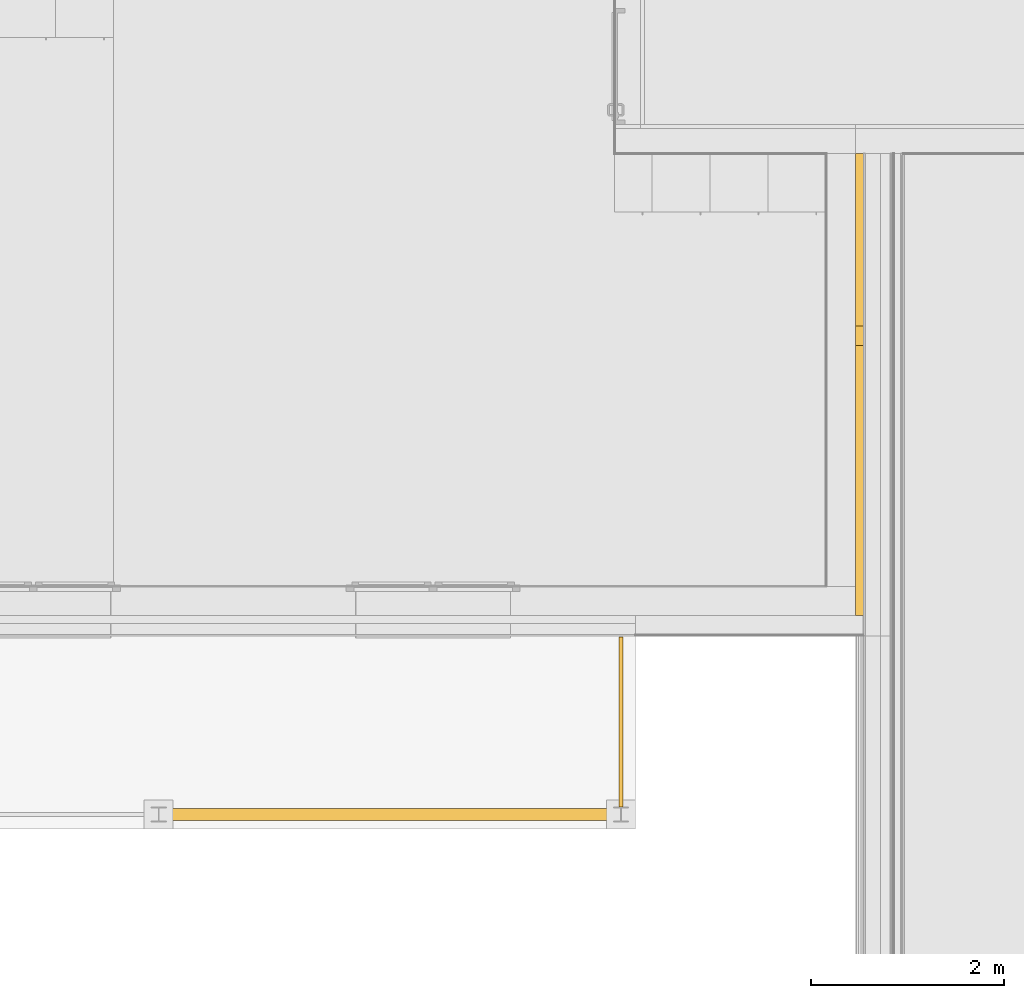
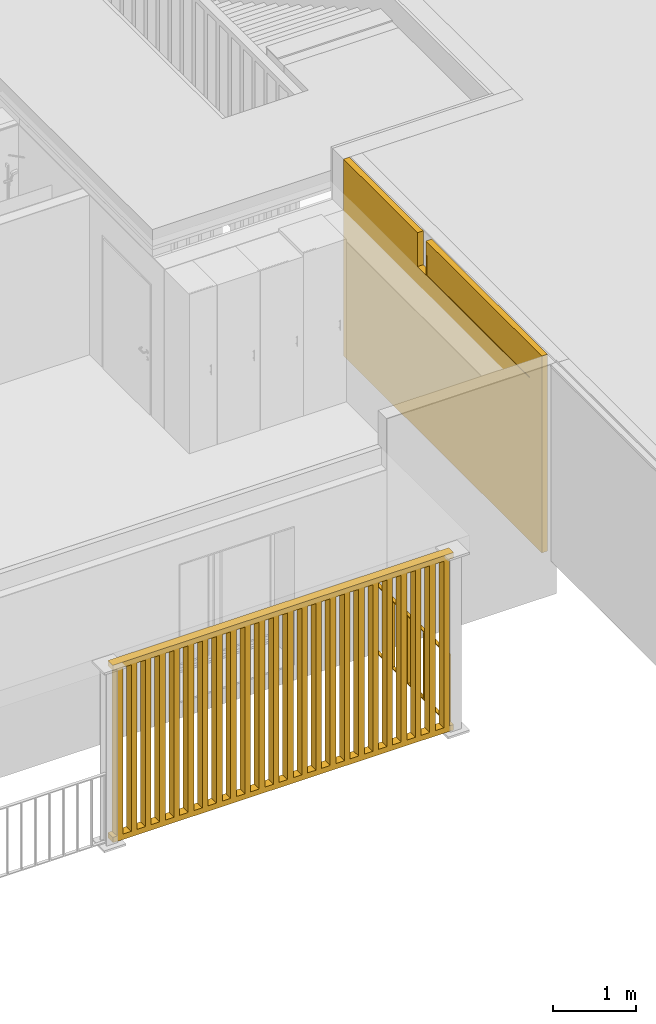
# One storey, part 24 of 34: 2 railings, 1 covering.
"""IFC4 building model written with IfcOpenShell, lengths in millimetres."""

from ifc_helpers import new_model, entity, si_unit, converted_unit, derived_unit, direction, frame, origin_with_axes, place, context, subcontext, project, spatial, polygons, material, constituent, constituent_set, type_object, element, save


model = new_model("IFC4")

# Units and contexts
model_context = context("Model", 3, precision=0.01, world=origin_with_axes(), true_north=direction((0.0, 1.0)))
body_context = subcontext(model_context, "Body", "Model", "MODEL_VIEW")
ifc_project = project(units=[si_unit("LENGTHUNIT", "METRE", prefix="MILLI"), si_unit("AREAUNIT", "SQUARE_METRE"), si_unit("VOLUMEUNIT", "CUBIC_METRE"), converted_unit("PLANEANGLEUNIT", "DEGREE", entity("IfcPlaneAngleMeasure", 0.0174532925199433), si_unit("PLANEANGLEUNIT", "RADIAN"), dimensions=[0, 0, 0, 0, 0, 0, 0]), converted_unit("TIMEUNIT", "Year", entity("IfcTimeMeasure", 31557600.0), si_unit("TIMEUNIT", "SECOND"), dimensions=[0, 0, 1, 0, 0, 0, 0]), si_unit("MASSUNIT", "GRAM", prefix="KILO"), si_unit("THERMODYNAMICTEMPERATUREUNIT", "DEGREE_CELSIUS"), si_unit("LUMINOUSINTENSITYUNIT", "LUMEN"), si_unit("ENERGYUNIT", "JOULE", prefix="MEGA"), derived_unit("THERMALCONDUCTANCEUNIT", [(si_unit("POWERUNIT", "WATT"), 1), (si_unit("LENGTHUNIT", "METRE"), -1), (si_unit("THERMODYNAMICTEMPERATUREUNIT", "KELVIN"), -1)]), derived_unit("SPECIFICHEATCAPACITYUNIT", [(si_unit("ENERGYUNIT", "JOULE"), 1), (si_unit("MASSUNIT", "GRAM", prefix="KILO"), -1), (si_unit("THERMODYNAMICTEMPERATUREUNIT", "KELVIN"), -1)]), derived_unit("MASSDENSITYUNIT", [(si_unit("MASSUNIT", "GRAM", prefix="KILO"), 1), (si_unit("VOLUMEUNIT", "CUBIC_METRE"), -1)])], contexts=[model_context])

# Site, building, storey
site_placement = place(None, origin_with_axes())
site = spatial("IfcSite", under=ifc_project, at=site_placement, Name="Gelände", CompositionType="ELEMENT")
building_placement = place(site_placement, origin_with_axes())
building = spatial("IfcBuilding", under=site, at=building_placement, Name="Gebäude", CompositionType="ELEMENT")
storey_placement = place(building_placement, frame((0.0, 0.0, 5799.999999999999), z_axis=(0.0, 0.0, 1.0), x_axis=(1.0, 0.0, 0.0)))
storey = spatial("IfcBuildingStorey", under=building, at=storey_placement, Name="2.OG", CompositionType="ELEMENT", Elevation=5800.0)

# Railings
ifc_material_1 = material(Name="Stahl")
ifc_constituent_1 = constituent(ifc_material_1, Name="Stahl 1")
ifc_constituent_2 = constituent(ifc_material_1, Name="Stahl 2")
ifc_constituent_3 = constituent(ifc_material_1, Name="Stahl 3")
ifc_constituent_4 = constituent(ifc_material_1, Name="Stahl 4")
ifc_constituent_5 = constituent(ifc_material_1, Name="Stahl 5")
ifc_constituent_6 = constituent(ifc_material_1, Name="Stahl 6")
ifc_constituent_7 = constituent(ifc_material_1, Name="Stahl 7")
ifc_constituent_8 = constituent(ifc_material_1, Name="Stahl 8")
ifc_constituent_9 = constituent(ifc_material_1, Name="Stahl 9")
ifc_constituent_10 = constituent(ifc_material_1, Name="Stahl 10")
ifc_constituent_11 = constituent(ifc_material_1, Name="Stahl 11")
ifc_constituent_12 = constituent(ifc_material_1, Name="Stahl 12")
ifc_constituent_13 = constituent(ifc_material_1, Name="Stahl 13")
ifc_constituent_14 = constituent(ifc_material_1, Name="Stahl 14")
ifc_constituent_set_1 = constituent_set(constituents=[ifc_constituent_1, ifc_constituent_2, ifc_constituent_3, ifc_constituent_4, ifc_constituent_5, ifc_constituent_6, ifc_constituent_7, ifc_constituent_8, ifc_constituent_9, ifc_constituent_10, ifc_constituent_11, ifc_constituent_12, ifc_constituent_13, ifc_constituent_14])
railing_type = type_object("IfcRailingType", Name="Geländerart", PredefinedType="NOTDEFINED")
railing_1_placement = place(storey_placement, frame((15487.99581849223, 21105.09674077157, 49.99999999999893), z_axis=(0.0, 0.0, 1.0), x_axis=(1.0, 0.0, 0.0)))
element("IfcRailing", 1, at=railing_1_placement, inside=storey, type_object=railing_type, material=ifc_constituent_set_1, Name="Geländer-003", PredefinedType="NOTDEFINED", context=body_context, shape_type="Tessellation", body=[
    polygons([(19.99999999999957, 83.49999999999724, 0.0), (-19.99999999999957, 83.49999999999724, 0.0), (-19.99999999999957, 83.49999999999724, 1000.0), (19.99999999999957, 83.49999999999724, 1000.0), (19.99999999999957, 68.49999999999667, 0.0), (-19.99999999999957, 68.49999999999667, 0.0), (-19.99999999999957, 68.49999999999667, 1000.0), (19.99999999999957, 68.49999999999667, 1000.0)], [[[1, 2, 3, 4]], [[1, 5, 6, 2]], [[2, 6, 7, 3]], [[4, 3, 7, 8]], [[5, 1, 4, 8]], [[6, 5, 8, 7]]], closed=True),
    polygons([(-22.50000000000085, 75.99999999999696, 1000.0), (-22.50000000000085, 75.99999999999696, 985.0000000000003), (-22.50000000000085, 68.49999999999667, 985.0000000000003), (-22.50000000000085, 68.49999999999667, 1000.0), (22.50000000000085, 75.99999999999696, 1000.0), (22.50000000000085, 75.99999999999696, 985.0000000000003), (22.50000000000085, 68.49999999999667, 985.0000000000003), (22.50000000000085, 68.49999999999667, 1000.0)], [[[1, 2, 3, 4]], [[1, 5, 6, 2]], [[2, 6, 7, 3]], [[4, 3, 7, 8]], [[5, 1, 4, 8]], [[6, 5, 8, 7]]], closed=True),
    polygons([(19.99999999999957, 1830.000000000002, 0.0), (-19.99999999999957, 1830.000000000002, 0.0), (-19.99999999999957, 1830.000000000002, 1000.0), (19.99999999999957, 1830.000000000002, 1000.0), (19.99999999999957, 1815.000000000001, 0.0), (-19.99999999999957, 1815.000000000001, 0.0), (-19.99999999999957, 1815.000000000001, 1000.0), (19.99999999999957, 1815.000000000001, 1000.0)], [[[1, 2, 3, 4]], [[1, 5, 6, 2]], [[2, 6, 7, 3]], [[4, 3, 7, 8]], [[5, 1, 4, 8]], [[6, 5, 8, 7]]], closed=True),
    polygons([(22.50000000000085, 1822.500000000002, 1000.0), (22.50000000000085, 1822.500000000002, 985.0000000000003), (22.50000000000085, 1830.000000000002, 985.0000000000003), (22.50000000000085, 1830.000000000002, 1000.0), (-22.50000000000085, 1822.500000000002, 1000.0), (-22.50000000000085, 1822.500000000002, 985.0000000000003), (-22.50000000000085, 1830.000000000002, 985.0000000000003), (-22.50000000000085, 1830.000000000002, 1000.0)], [[[1, 2, 3, 4]], [[1, 5, 6, 2]], [[2, 6, 7, 3]], [[4, 3, 7, 8]], [[5, 1, 4, 8]], [[6, 5, 8, 7]]], closed=True),
    polygons([(22.50000000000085, 75.99999999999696, 0.9999999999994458), (22.50000000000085, 75.99999999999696, -14.00000000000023), (22.50000000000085, 1822.500000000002, -14.00000000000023), (22.50000000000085, 1822.500000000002, 0.9999999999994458), (-22.50000000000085, 75.99999999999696, 0.9999999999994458), (-22.50000000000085, 75.99999999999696, -14.00000000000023), (-22.50000000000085, 1822.500000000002, -14.00000000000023), (-22.50000000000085, 1822.500000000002, 0.9999999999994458)], [[[1, 2, 3, 4]], [[1, 5, 6, 2]], [[2, 6, 7, 3]], [[4, 3, 7, 8]], [[5, 1, 4, 8]], [[6, 5, 8, 7]]], closed=True),
    polygons([(22.50000000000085, 75.99999999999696, 1000.0), (22.50000000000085, 75.99999999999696, 985.0000000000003), (22.50000000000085, 1822.500000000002, 985.0000000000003), (22.50000000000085, 1822.500000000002, 1000.0), (-22.50000000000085, 75.99999999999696, 1000.0), (-22.50000000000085, 75.99999999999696, 985.0000000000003), (-22.50000000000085, 1822.500000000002, 985.0000000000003), (-22.50000000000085, 1822.500000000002, 1000.0)], [[[1, 2, 3, 4]], [[1, 5, 6, 2]], [[2, 6, 7, 3]], [[4, 3, 7, 8]], [[5, 1, 4, 8]], [[6, 5, 8, 7]]], closed=True),
    polygons([(22.50000000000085, 277.5555555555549, 0.0), (-22.50000000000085, 277.5555555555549, 0.0), (-22.50000000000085, 277.5555555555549, 985.2293691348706), (22.49999999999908, 277.5555555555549, 985.2293691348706), (22.50000000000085, 262.5555555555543, 0.0), (-22.50000000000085, 262.5555555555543, 0.0), (-22.50000000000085, 262.5555555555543, 985.2293691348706), (22.49999999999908, 262.5555555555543, 985.2293691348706)], [[[1, 2, 3, 4]], [[1, 5, 6, 2]], [[2, 6, 7, 3]], [[4, 3, 7, 8]], [[5, 1, 4, 8]], [[6, 5, 8, 7]]], closed=True),
    polygons([(22.50000000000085, 471.611111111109, 0.0), (-22.50000000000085, 471.611111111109, 0.0), (-22.50000000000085, 471.611111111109, 985.2293691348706), (22.49999999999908, 471.611111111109, 985.2293691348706), (22.50000000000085, 456.6111111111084, 0.0), (-22.50000000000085, 456.6111111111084, 0.0), (-22.50000000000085, 456.6111111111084, 985.2293691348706), (22.49999999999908, 456.6111111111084, 985.2293691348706)], [[[1, 2, 3, 4]], [[1, 5, 6, 2]], [[2, 6, 7, 3]], [[4, 3, 7, 8]], [[5, 1, 4, 8]], [[6, 5, 8, 7]]], closed=True),
    polygons([(22.50000000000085, 665.6666666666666, 0.0), (-22.50000000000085, 665.6666666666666, 0.0), (-22.50000000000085, 665.6666666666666, 985.2293691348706), (22.49999999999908, 665.6666666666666, 985.2293691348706), (22.50000000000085, 650.6666666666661, 0.0), (-22.50000000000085, 650.6666666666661, 0.0), (-22.50000000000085, 650.6666666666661, 985.2293691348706), (22.49999999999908, 650.6666666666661, 985.2293691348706)], [[[1, 2, 3, 4]], [[1, 5, 6, 2]], [[2, 6, 7, 3]], [[4, 3, 7, 8]], [[5, 1, 4, 8]], [[6, 5, 8, 7]]], closed=True),
    polygons([(22.50000000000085, 859.7222222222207, 0.0), (-22.50000000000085, 859.7222222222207, 0.0), (-22.50000000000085, 859.7222222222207, 985.2293691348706), (22.49999999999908, 859.7222222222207, 985.2293691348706), (22.50000000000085, 844.7222222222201, 0.0), (-22.50000000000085, 844.7222222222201, 0.0), (-22.50000000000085, 844.7222222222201, 985.2293691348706), (22.49999999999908, 844.7222222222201, 985.2293691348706)], [[[1, 2, 3, 4]], [[1, 5, 6, 2]], [[2, 6, 7, 3]], [[4, 3, 7, 8]], [[5, 1, 4, 8]], [[6, 5, 8, 7]]], closed=True),
    polygons([(22.50000000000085, 1053.777777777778, 0.0), (-22.50000000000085, 1053.777777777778, 0.0), (-22.50000000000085, 1053.777777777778, 985.2293691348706), (22.49999999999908, 1053.777777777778, 985.2293691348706), (22.50000000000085, 1038.777777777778, 0.0), (-22.50000000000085, 1038.777777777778, 0.0), (-22.50000000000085, 1038.777777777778, 985.2293691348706), (22.49999999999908, 1038.777777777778, 985.2293691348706)], [[[1, 2, 3, 4]], [[1, 5, 6, 2]], [[2, 6, 7, 3]], [[4, 3, 7, 8]], [[5, 1, 4, 8]], [[6, 5, 8, 7]]], closed=True),
    polygons([(22.50000000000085, 1247.833333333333, 0.0), (-22.50000000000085, 1247.833333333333, 0.0), (-22.50000000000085, 1247.833333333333, 985.2293691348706), (22.49999999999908, 1247.833333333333, 985.2293691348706), (22.50000000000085, 1232.833333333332, 0.0), (-22.50000000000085, 1232.833333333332, 0.0), (-22.50000000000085, 1232.833333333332, 985.2293691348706), (22.49999999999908, 1232.833333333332, 985.2293691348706)], [[[1, 2, 3, 4]], [[1, 5, 6, 2]], [[2, 6, 7, 3]], [[4, 3, 7, 8]], [[5, 1, 4, 8]], [[6, 5, 8, 7]]], closed=True),
    polygons([(22.50000000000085, 1441.88888888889, 0.0), (-22.50000000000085, 1441.88888888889, 0.0), (-22.50000000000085, 1441.88888888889, 985.2293691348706), (22.49999999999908, 1441.88888888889, 985.2293691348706), (22.50000000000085, 1426.88888888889, 0.0), (-22.50000000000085, 1426.88888888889, 0.0), (-22.50000000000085, 1426.88888888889, 985.2293691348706), (22.49999999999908, 1426.88888888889, 985.2293691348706)], [[[1, 2, 3, 4]], [[1, 5, 6, 2]], [[2, 6, 7, 3]], [[4, 3, 7, 8]], [[5, 1, 4, 8]], [[6, 5, 8, 7]]], closed=True),
    polygons([(22.50000000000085, 1635.944444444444, 0.0), (-22.50000000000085, 1635.944444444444, 0.0), (-22.50000000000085, 1635.944444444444, 985.2293691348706), (22.49999999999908, 1635.944444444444, 985.2293691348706), (22.50000000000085, 1620.944444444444, 0.0), (-22.50000000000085, 1620.944444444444, 0.0), (-22.50000000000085, 1620.944444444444, 985.2293691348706), (22.49999999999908, 1620.944444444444, 985.2293691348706)], [[[1, 2, 3, 4]], [[1, 5, 6, 2]], [[2, 6, 7, 3]], [[4, 3, 7, 8]], [[5, 1, 4, 8]], [[6, 5, 8, 7]]], closed=True),
])
ifc_material_2 = material(Name="Vollholzwerkstoff")
ifc_constituent_15 = constituent(ifc_material_2, Name="Vollholzwerkstoff 1")
ifc_constituent_16 = constituent(ifc_material_2, Name="Vollholzwerkstoff 2")
ifc_constituent_17 = constituent(ifc_material_2, Name="Vollholzwerkstoff 3")
ifc_constituent_18 = constituent(ifc_material_2, Name="Vollholzwerkstoff 4")
ifc_constituent_19 = constituent(ifc_material_2, Name="Vollholzwerkstoff 5")
ifc_constituent_20 = constituent(ifc_material_2, Name="Vollholzwerkstoff 6")
ifc_constituent_21 = constituent(ifc_material_2, Name="Vollholzwerkstoff 7")
ifc_constituent_22 = constituent(ifc_material_2, Name="Vollholzwerkstoff 8")
ifc_constituent_23 = constituent(ifc_material_2, Name="Vollholzwerkstoff 9")
ifc_constituent_24 = constituent(ifc_material_2, Name="Vollholzwerkstoff 10")
ifc_constituent_25 = constituent(ifc_material_2, Name="Vollholzwerkstoff 11")
ifc_constituent_26 = constituent(ifc_material_2, Name="Vollholzwerkstoff 12")
ifc_constituent_27 = constituent(ifc_material_2, Name="Vollholzwerkstoff 13")
ifc_constituent_28 = constituent(ifc_material_2, Name="Vollholzwerkstoff 14")
ifc_constituent_29 = constituent(ifc_material_2, Name="Vollholzwerkstoff 15")
ifc_constituent_30 = constituent(ifc_material_2, Name="Vollholzwerkstoff 16")
ifc_constituent_31 = constituent(ifc_material_2, Name="Vollholzwerkstoff 17")
ifc_constituent_32 = constituent(ifc_material_2, Name="Vollholzwerkstoff 18")
ifc_constituent_33 = constituent(ifc_material_2, Name="Vollholzwerkstoff 19")
ifc_constituent_34 = constituent(ifc_material_2, Name="Vollholzwerkstoff 20")
ifc_constituent_35 = constituent(ifc_material_2, Name="Vollholzwerkstoff 21")
ifc_constituent_36 = constituent(ifc_material_2, Name="Vollholzwerkstoff 22")
ifc_constituent_37 = constituent(ifc_material_2, Name="Vollholzwerkstoff 23")
ifc_constituent_38 = constituent(ifc_material_2, Name="Vollholzwerkstoff 24")
ifc_constituent_39 = constituent(ifc_material_2, Name="Vollholzwerkstoff 25")
ifc_constituent_40 = constituent(ifc_material_2, Name="Vollholzwerkstoff 26")
ifc_constituent_set_2 = constituent_set(constituents=[ifc_constituent_15, ifc_constituent_16, ifc_constituent_17, ifc_constituent_18, ifc_constituent_19, ifc_constituent_20, ifc_constituent_21, ifc_constituent_22, ifc_constituent_23, ifc_constituent_24, ifc_constituent_25, ifc_constituent_26, ifc_constituent_27, ifc_constituent_28, ifc_constituent_29, ifc_constituent_30, ifc_constituent_31, ifc_constituent_32, ifc_constituent_33, ifc_constituent_34, ifc_constituent_35, ifc_constituent_36, ifc_constituent_37, ifc_constituent_38, ifc_constituent_39, ifc_constituent_40])
railing_2_placement = place(storey_placement, frame((10578.1363564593, 21097.59674077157, 74.99999999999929), z_axis=(0.0, 0.0, 1.0), x_axis=(1.0, 0.0, 0.0)))
element("IfcRailing", 2, at=railing_2_placement, inside=storey, type_object=railing_type, material=ifc_constituent_set_2, Name="Geländer-001", PredefinedType="NOTDEFINED", context=body_context, shape_type="Tessellation", body=[
    polygons([(139.0594620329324, -59.99999999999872, 2574.999999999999), (139.0594620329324, -59.99999999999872, 2494.999999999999), (4889.859462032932, -59.99999999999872, 2494.999999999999), (4889.859462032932, -59.99999999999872, 2574.999999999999), (139.0594620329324, 59.99999999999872, 2574.999999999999), (139.0594620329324, 59.99999999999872, 2494.999999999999), (4889.859462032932, 59.99999999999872, 2494.999999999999), (4889.859462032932, 59.99999999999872, 2574.999999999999)], [[[1, 2, 3, 4]], [[1, 5, 6, 2]], [[2, 6, 7, 3]], [[4, 3, 7, 8]], [[5, 1, 4, 8]], [[6, 5, 8, 7]]], closed=True),
    polygons([(139.0594620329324, -59.99999999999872, 40.00000000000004), (139.0594620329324, -59.99999999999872, -40.00000000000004), (4889.859462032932, -59.99999999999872, -40.00000000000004), (4889.859462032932, -59.99999999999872, 40.00000000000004), (139.0594620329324, 59.99999999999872, 40.00000000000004), (139.0594620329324, 59.99999999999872, -40.00000000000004), (4889.859462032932, 59.99999999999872, -40.00000000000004), (4889.859462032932, 59.99999999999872, 40.00000000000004)], [[[1, 2, 3, 4]], [[1, 5, 6, 2]], [[2, 6, 7, 3]], [[4, 3, 7, 8]], [[5, 1, 4, 8]], [[6, 5, 8, 7]]], closed=True),
    polygons([(277.0914620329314, -59.99999999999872, 40.00000000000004), (277.0914620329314, 59.99999999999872, 40.00000000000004), (277.0914620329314, 59.99999999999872, 2494.999999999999), (277.0914620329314, -59.99999999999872, 2494.999999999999), (197.0914620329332, -59.99999999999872, 40.00000000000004), (197.0914620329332, 59.99999999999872, 40.00000000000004), (197.0914620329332, 59.99999999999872, 2494.999999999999), (197.0914620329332, -59.99999999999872, 2494.999999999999)], [[[1, 2, 3, 4]], [[1, 5, 6, 2]], [[2, 6, 7, 3]], [[4, 3, 7, 8]], [[5, 1, 4, 8]], [[6, 5, 8, 7]]], closed=True),
    polygons([(475.123462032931, -59.99999999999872, 40.00000000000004), (475.123462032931, 59.99999999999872, 40.00000000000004), (475.123462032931, 59.99999999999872, 2494.999999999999), (475.123462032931, -59.99999999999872, 2494.999999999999), (395.1234620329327, -59.99999999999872, 40.00000000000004), (395.1234620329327, 59.99999999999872, 40.00000000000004), (395.1234620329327, 59.99999999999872, 2494.999999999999), (395.1234620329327, -59.99999999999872, 2494.999999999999)], [[[1, 2, 3, 4]], [[1, 5, 6, 2]], [[2, 6, 7, 3]], [[4, 3, 7, 8]], [[5, 1, 4, 8]], [[6, 5, 8, 7]]], closed=True),
    polygons([(673.1554620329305, -59.99999999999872, 40.00000000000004), (673.1554620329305, 59.99999999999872, 40.00000000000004), (673.1554620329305, 59.99999999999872, 2494.999999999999), (673.1554620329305, -59.99999999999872, 2494.999999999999), (593.1554620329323, -59.99999999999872, 40.00000000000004), (593.1554620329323, 59.99999999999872, 40.00000000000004), (593.1554620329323, 59.99999999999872, 2494.999999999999), (593.1554620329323, -59.99999999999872, 2494.999999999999)], [[[1, 2, 3, 4]], [[1, 5, 6, 2]], [[2, 6, 7, 3]], [[4, 3, 7, 8]], [[5, 1, 4, 8]], [[6, 5, 8, 7]]], closed=True),
    polygons([(871.1874620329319, -59.99999999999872, 40.00000000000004), (871.1874620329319, 59.99999999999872, 40.00000000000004), (871.1874620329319, 59.99999999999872, 2494.999999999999), (871.1874620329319, -59.99999999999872, 2494.999999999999), (791.1874620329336, -59.99999999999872, 40.00000000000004), (791.1874620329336, 59.99999999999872, 40.00000000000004), (791.1874620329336, 59.99999999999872, 2494.999999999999), (791.1874620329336, -59.99999999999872, 2494.999999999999)], [[[1, 2, 3, 4]], [[1, 5, 6, 2]], [[2, 6, 7, 3]], [[4, 3, 7, 8]], [[5, 1, 4, 8]], [[6, 5, 8, 7]]], closed=True),
    polygons([(1069.219462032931, -59.99999999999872, 40.00000000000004), (1069.219462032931, 59.99999999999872, 40.00000000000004), (1069.219462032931, 59.99999999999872, 2494.999999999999), (1069.219462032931, -59.99999999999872, 2494.999999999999), (989.219462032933, -59.99999999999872, 40.00000000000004), (989.219462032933, 59.99999999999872, 40.00000000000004), (989.219462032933, 59.99999999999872, 2494.999999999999), (989.219462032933, -59.99999999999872, 2494.999999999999)], [[[1, 2, 3, 4]], [[1, 5, 6, 2]], [[2, 6, 7, 3]], [[4, 3, 7, 8]], [[5, 1, 4, 8]], [[6, 5, 8, 7]]], closed=True),
    polygons([(1267.251462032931, -59.99999999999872, 40.00000000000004), (1267.251462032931, 59.99999999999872, 40.00000000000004), (1267.251462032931, 59.99999999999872, 2494.999999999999), (1267.251462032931, -59.99999999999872, 2494.999999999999), (1187.251462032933, -59.99999999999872, 40.00000000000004), (1187.251462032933, 59.99999999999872, 40.00000000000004), (1187.251462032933, 59.99999999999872, 2494.999999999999), (1187.251462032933, -59.99999999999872, 2494.999999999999)], [[[1, 2, 3, 4]], [[1, 5, 6, 2]], [[2, 6, 7, 3]], [[4, 3, 7, 8]], [[5, 1, 4, 8]], [[6, 5, 8, 7]]], closed=True),
    polygons([(1465.28346203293, -59.99999999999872, 40.00000000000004), (1465.28346203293, 59.99999999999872, 40.00000000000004), (1465.28346203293, 59.99999999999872, 2494.999999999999), (1465.28346203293, -59.99999999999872, 2494.999999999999), (1385.283462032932, -59.99999999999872, 40.00000000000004), (1385.283462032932, 59.99999999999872, 40.00000000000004), (1385.283462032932, 59.99999999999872, 2494.999999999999), (1385.283462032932, -59.99999999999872, 2494.999999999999)], [[[1, 2, 3, 4]], [[1, 5, 6, 2]], [[2, 6, 7, 3]], [[4, 3, 7, 8]], [[5, 1, 4, 8]], [[6, 5, 8, 7]]], closed=True),
    polygons([(1663.315462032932, -59.99999999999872, 40.00000000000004), (1663.315462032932, 59.99999999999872, 40.00000000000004), (1663.315462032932, 59.99999999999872, 2494.999999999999), (1663.315462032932, -59.99999999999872, 2494.999999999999), (1583.315462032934, -59.99999999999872, 40.00000000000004), (1583.315462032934, 59.99999999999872, 40.00000000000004), (1583.315462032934, 59.99999999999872, 2494.999999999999), (1583.315462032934, -59.99999999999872, 2494.999999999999)], [[[1, 2, 3, 4]], [[1, 5, 6, 2]], [[2, 6, 7, 3]], [[4, 3, 7, 8]], [[5, 1, 4, 8]], [[6, 5, 8, 7]]], closed=True),
    polygons([(1861.347462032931, -59.99999999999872, 40.00000000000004), (1861.347462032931, 59.99999999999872, 40.00000000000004), (1861.347462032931, 59.99999999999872, 2494.999999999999), (1861.347462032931, -59.99999999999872, 2494.999999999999), (1781.347462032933, -59.99999999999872, 40.00000000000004), (1781.347462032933, 59.99999999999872, 40.00000000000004), (1781.347462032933, 59.99999999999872, 2494.999999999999), (1781.347462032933, -59.99999999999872, 2494.999999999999)], [[[1, 2, 3, 4]], [[1, 5, 6, 2]], [[2, 6, 7, 3]], [[4, 3, 7, 8]], [[5, 1, 4, 8]], [[6, 5, 8, 7]]], closed=True),
    polygons([(2059.379462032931, -59.99999999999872, 40.00000000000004), (2059.379462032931, 59.99999999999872, 40.00000000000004), (2059.379462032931, 59.99999999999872, 2494.999999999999), (2059.379462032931, -59.99999999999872, 2494.999999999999), (1979.379462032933, -59.99999999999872, 40.00000000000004), (1979.379462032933, 59.99999999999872, 40.00000000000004), (1979.379462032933, 59.99999999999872, 2494.999999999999), (1979.379462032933, -59.99999999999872, 2494.999999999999)], [[[1, 2, 3, 4]], [[1, 5, 6, 2]], [[2, 6, 7, 3]], [[4, 3, 7, 8]], [[5, 1, 4, 8]], [[6, 5, 8, 7]]], closed=True),
    polygons([(2257.411462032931, -59.99999999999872, 40.00000000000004), (2257.411462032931, 59.99999999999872, 40.00000000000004), (2257.411462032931, 59.99999999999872, 2494.999999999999), (2257.411462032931, -59.99999999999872, 2494.999999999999), (2177.411462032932, -59.99999999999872, 40.00000000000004), (2177.411462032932, 59.99999999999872, 40.00000000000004), (2177.411462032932, 59.99999999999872, 2494.999999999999), (2177.411462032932, -59.99999999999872, 2494.999999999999)], [[[1, 2, 3, 4]], [[1, 5, 6, 2]], [[2, 6, 7, 3]], [[4, 3, 7, 8]], [[5, 1, 4, 8]], [[6, 5, 8, 7]]], closed=True),
    polygons([(2455.443462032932, -59.99999999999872, 40.00000000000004), (2455.443462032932, 59.99999999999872, 40.00000000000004), (2455.443462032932, 59.99999999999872, 2494.999999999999), (2455.443462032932, -59.99999999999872, 2494.999999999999), (2375.443462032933, -59.99999999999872, 40.00000000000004), (2375.443462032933, 59.99999999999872, 40.00000000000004), (2375.443462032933, 59.99999999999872, 2494.999999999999), (2375.443462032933, -59.99999999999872, 2494.999999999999)], [[[1, 2, 3, 4]], [[1, 5, 6, 2]], [[2, 6, 7, 3]], [[4, 3, 7, 8]], [[5, 1, 4, 8]], [[6, 5, 8, 7]]], closed=True),
    polygons([(2653.475462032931, -59.99999999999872, 40.00000000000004), (2653.475462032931, 59.99999999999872, 40.00000000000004), (2653.475462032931, 59.99999999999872, 2494.999999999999), (2653.475462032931, -59.99999999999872, 2494.999999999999), (2573.475462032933, -59.99999999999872, 40.00000000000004), (2573.475462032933, 59.99999999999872, 40.00000000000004), (2573.475462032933, 59.99999999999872, 2494.999999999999), (2573.475462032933, -59.99999999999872, 2494.999999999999)], [[[1, 2, 3, 4]], [[1, 5, 6, 2]], [[2, 6, 7, 3]], [[4, 3, 7, 8]], [[5, 1, 4, 8]], [[6, 5, 8, 7]]], closed=True),
    polygons([(2851.507462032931, -59.99999999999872, 40.00000000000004), (2851.507462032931, 59.99999999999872, 40.00000000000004), (2851.507462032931, 59.99999999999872, 2494.999999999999), (2851.507462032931, -59.99999999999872, 2494.999999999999), (2771.507462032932, -59.99999999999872, 40.00000000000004), (2771.507462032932, 59.99999999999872, 40.00000000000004), (2771.507462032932, 59.99999999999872, 2494.999999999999), (2771.507462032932, -59.99999999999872, 2494.999999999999)], [[[1, 2, 3, 4]], [[1, 5, 6, 2]], [[2, 6, 7, 3]], [[4, 3, 7, 8]], [[5, 1, 4, 8]], [[6, 5, 8, 7]]], closed=True),
    polygons([(3049.53946203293, -59.99999999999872, 40.00000000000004), (3049.53946203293, 59.99999999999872, 40.00000000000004), (3049.53946203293, 59.99999999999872, 2494.999999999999), (3049.53946203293, -59.99999999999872, 2494.999999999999), (2969.539462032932, -59.99999999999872, 40.00000000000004), (2969.539462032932, 59.99999999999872, 40.00000000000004), (2969.539462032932, 59.99999999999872, 2494.999999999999), (2969.539462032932, -59.99999999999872, 2494.999999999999)], [[[1, 2, 3, 4]], [[1, 5, 6, 2]], [[2, 6, 7, 3]], [[4, 3, 7, 8]], [[5, 1, 4, 8]], [[6, 5, 8, 7]]], closed=True),
    polygons([(3247.57146203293, -59.99999999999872, 40.00000000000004), (3247.57146203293, 59.99999999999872, 40.00000000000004), (3247.57146203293, 59.99999999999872, 2494.999999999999), (3247.57146203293, -59.99999999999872, 2494.999999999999), (3167.571462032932, -59.99999999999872, 40.00000000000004), (3167.571462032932, 59.99999999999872, 40.00000000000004), (3167.571462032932, 59.99999999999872, 2494.999999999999), (3167.571462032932, -59.99999999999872, 2494.999999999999)], [[[1, 2, 3, 4]], [[1, 5, 6, 2]], [[2, 6, 7, 3]], [[4, 3, 7, 8]], [[5, 1, 4, 8]], [[6, 5, 8, 7]]], closed=True),
    polygons([(3445.603462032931, -59.99999999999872, 40.00000000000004), (3445.603462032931, 59.99999999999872, 40.00000000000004), (3445.603462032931, 59.99999999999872, 2494.999999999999), (3445.603462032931, -59.99999999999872, 2494.999999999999), (3365.603462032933, -59.99999999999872, 40.00000000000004), (3365.603462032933, 59.99999999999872, 40.00000000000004), (3365.603462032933, 59.99999999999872, 2494.999999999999), (3365.603462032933, -59.99999999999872, 2494.999999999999)], [[[1, 2, 3, 4]], [[1, 5, 6, 2]], [[2, 6, 7, 3]], [[4, 3, 7, 8]], [[5, 1, 4, 8]], [[6, 5, 8, 7]]], closed=True),
    polygons([(3643.635462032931, -59.99999999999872, 40.00000000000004), (3643.635462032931, 59.99999999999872, 40.00000000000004), (3643.635462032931, 59.99999999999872, 2494.999999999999), (3643.635462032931, -59.99999999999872, 2494.999999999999), (3563.635462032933, -59.99999999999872, 40.00000000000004), (3563.635462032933, 59.99999999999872, 40.00000000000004), (3563.635462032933, 59.99999999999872, 2494.999999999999), (3563.635462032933, -59.99999999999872, 2494.999999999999)], [[[1, 2, 3, 4]], [[1, 5, 6, 2]], [[2, 6, 7, 3]], [[4, 3, 7, 8]], [[5, 1, 4, 8]], [[6, 5, 8, 7]]], closed=True),
    polygons([(3841.66746203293, -59.99999999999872, 40.00000000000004), (3841.66746203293, 59.99999999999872, 40.00000000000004), (3841.66746203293, 59.99999999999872, 2494.999999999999), (3841.66746203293, -59.99999999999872, 2494.999999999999), (3761.667462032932, -59.99999999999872, 40.00000000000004), (3761.667462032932, 59.99999999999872, 40.00000000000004), (3761.667462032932, 59.99999999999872, 2494.999999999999), (3761.667462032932, -59.99999999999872, 2494.999999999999)], [[[1, 2, 3, 4]], [[1, 5, 6, 2]], [[2, 6, 7, 3]], [[4, 3, 7, 8]], [[5, 1, 4, 8]], [[6, 5, 8, 7]]], closed=True),
    polygons([(4039.699462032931, -59.99999999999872, 40.00000000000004), (4039.699462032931, 59.99999999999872, 40.00000000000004), (4039.699462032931, 59.99999999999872, 2494.999999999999), (4039.699462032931, -59.99999999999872, 2494.999999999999), (3959.699462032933, -59.99999999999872, 40.00000000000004), (3959.699462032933, 59.99999999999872, 40.00000000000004), (3959.699462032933, 59.99999999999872, 2494.999999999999), (3959.699462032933, -59.99999999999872, 2494.999999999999)], [[[1, 2, 3, 4]], [[1, 5, 6, 2]], [[2, 6, 7, 3]], [[4, 3, 7, 8]], [[5, 1, 4, 8]], [[6, 5, 8, 7]]], closed=True),
    polygons([(4237.731462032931, -59.99999999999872, 40.00000000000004), (4237.731462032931, 59.99999999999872, 40.00000000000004), (4237.731462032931, 59.99999999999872, 2494.999999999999), (4237.731462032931, -59.99999999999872, 2494.999999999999), (4157.731462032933, -59.99999999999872, 40.00000000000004), (4157.731462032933, 59.99999999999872, 40.00000000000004), (4157.731462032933, 59.99999999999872, 2494.999999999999), (4157.731462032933, -59.99999999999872, 2494.999999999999)], [[[1, 2, 3, 4]], [[1, 5, 6, 2]], [[2, 6, 7, 3]], [[4, 3, 7, 8]], [[5, 1, 4, 8]], [[6, 5, 8, 7]]], closed=True),
    polygons([(4435.763462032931, -59.99999999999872, 40.00000000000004), (4435.763462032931, 59.99999999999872, 40.00000000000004), (4435.763462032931, 59.99999999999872, 2494.999999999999), (4435.763462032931, -59.99999999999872, 2494.999999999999), (4355.763462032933, -59.99999999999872, 40.00000000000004), (4355.763462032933, 59.99999999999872, 40.00000000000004), (4355.763462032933, 59.99999999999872, 2494.999999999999), (4355.763462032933, -59.99999999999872, 2494.999999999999)], [[[1, 2, 3, 4]], [[1, 5, 6, 2]], [[2, 6, 7, 3]], [[4, 3, 7, 8]], [[5, 1, 4, 8]], [[6, 5, 8, 7]]], closed=True),
    polygons([(4633.79546203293, -59.99999999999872, 40.00000000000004), (4633.79546203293, 59.99999999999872, 40.00000000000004), (4633.79546203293, 59.99999999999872, 2494.999999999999), (4633.79546203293, -59.99999999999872, 2494.999999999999), (4553.795462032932, -59.99999999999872, 40.00000000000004), (4553.795462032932, 59.99999999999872, 40.00000000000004), (4553.795462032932, 59.99999999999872, 2494.999999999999), (4553.795462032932, -59.99999999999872, 2494.999999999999)], [[[1, 2, 3, 4]], [[1, 5, 6, 2]], [[2, 6, 7, 3]], [[4, 3, 7, 8]], [[5, 1, 4, 8]], [[6, 5, 8, 7]]], closed=True),
    polygons([(4831.827462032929, -59.99999999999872, 40.00000000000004), (4831.827462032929, 59.99999999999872, 40.00000000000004), (4831.827462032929, 59.99999999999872, 2494.999999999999), (4831.827462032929, -59.99999999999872, 2494.999999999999), (4751.827462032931, -59.99999999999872, 40.00000000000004), (4751.827462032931, 59.99999999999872, 40.00000000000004), (4751.827462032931, 59.99999999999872, 2494.999999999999), (4751.827462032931, -59.99999999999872, 2494.999999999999)], [[[1, 2, 3, 4]], [[1, 5, 6, 2]], [[2, 6, 7, 3]], [[4, 3, 7, 8]], [[5, 1, 4, 8]], [[6, 5, 8, 7]]], closed=True),
])

# Covering
ifc_material_3 = material(Name="Dämmung Innen")
covering_type = type_object("IfcCoveringType", Name="Dämmung Innen 80", PredefinedType="NOTDEFINED")
covering_placement = place(storey_placement, frame((17999.99744477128, 27937.59728131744, 499.9999999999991), z_axis=(0.0, 0.0, 1.0), x_axis=(0.0, -1.0, 0.0)))
element("IfcCovering", 3, at=covering_placement, inside=storey, type_object=covering_type, material=ifc_material_3, Name="Wand-014", PredefinedType="NOTDEFINED", context=body_context, shape_type="Tessellation", body=[
    polygons([(4477.300453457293, -71.00000000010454, 2900.000000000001), (4480.000543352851, -71.00000000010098, 2900.00000294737), (4480.000543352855, -79.99999911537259, 2900.00000294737), (4780.000540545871, -80.00000000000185, 2900.000000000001), (4780.000540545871, 0.0, 2900.000000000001), (1980.00054054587, 0.0, 2900.000000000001), (1980.00054054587, -79.99999174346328, 2900.000000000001), (4477.300453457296, -79.99999910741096, 2900.000000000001), (4480.000458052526, -71.00000000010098, 2802.526755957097), (4477.300408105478, -71.00000000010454, 2802.526755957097), (4480.000458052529, -79.9999999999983, 2802.526755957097), (4477.300408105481, -79.9999999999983, 2802.526755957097), (1980.00054054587, -79.9999999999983, 2400.000000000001), (1780.000540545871, -79.9999999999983, 2400.000000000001), (1780.000540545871, -79.99999115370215, 2900.000000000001), (-10.00000000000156, -79.99998587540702, 2900.000000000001), (-10.00000000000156, -79.99998587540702, 2150.000000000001), (-10.00000000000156, -79.9999999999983, 0.0), (4780.000540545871, -80.00000000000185, 0.0), (1990.000540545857, -79.9999999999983, 2400.000000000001), (1990.000540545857, -79.9999999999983, 2700.000000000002), (4480.000540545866, -79.9999999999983, 2700.000000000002), (4480.000540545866, -79.9999999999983, 2400.000000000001), (4780.000540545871, 0.0, 0.0), (-10.00000000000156, 0.0, 2900.000000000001), (1780.000540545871, 0.0, 2900.000000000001), (1780.000540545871, 0.0, 2400.000000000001), (1980.00054054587, 0.0, 2400.000000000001), (-10.00000000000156, 0.0, 0.0), (1990.000540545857, -71.0000000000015, 2400.000000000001), (1990.000540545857, -71.0000000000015, 2700.000000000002), (4480.000540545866, -70.99999999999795, 2700.000000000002), (4480.000540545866, -70.99999999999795, 2400.000000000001)], [[[1, 2, 3, 4, 5, 6, 7, 8]], [[9, 2, 1, 10]], [[11, 3, 2, 9]], [[11, 12, 8, 7, 13, 14, 15, 16, 17, 18, 19, 4, 3], [20, 21, 22, 23]], [[5, 4, 19, 24]], [[25, 26, 27, 28, 6, 5, 24, 29]], [[6, 28, 13, 7]], [[10, 1, 8, 12]], [[10, 12, 11, 9]], [[27, 14, 13, 28]], [[26, 15, 14, 27]], [[26, 25, 16, 15]], [[29, 18, 17, 16, 25]], [[29, 24, 19, 18]], [[21, 20, 30, 31]], [[31, 32, 22, 21]], [[33, 23, 22, 32]], [[33, 30, 20, 23]], [[31, 30, 33, 32]]], closed=True),
])

save(model, "model.ifc")
